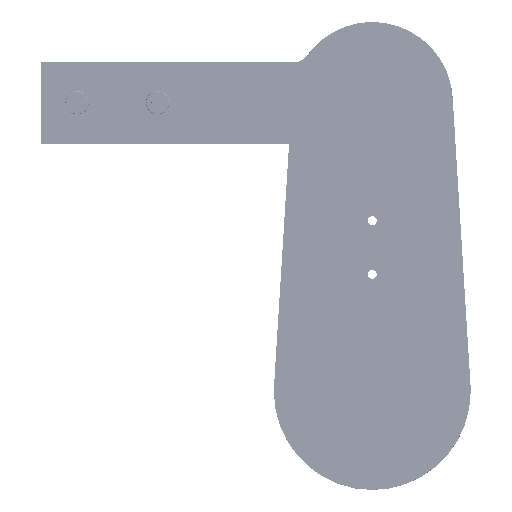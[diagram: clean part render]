
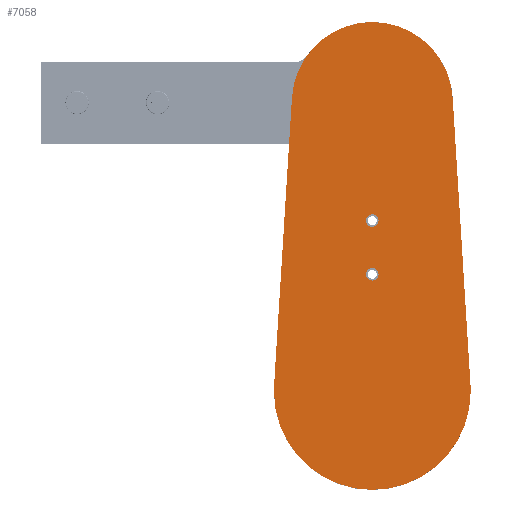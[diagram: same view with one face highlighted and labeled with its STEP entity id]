
A CAD part, top view. The second image highlights one B-rep face of the part: STEP entity #7058.
In plain terms, the highlighted planar face has unit normal (0, 0, 1) as drawn and (0, 0, -1) by its records, which use the part's own axes.
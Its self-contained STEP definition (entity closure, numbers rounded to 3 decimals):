
#544 = CIRCLE ( 'NONE', #12899, 55. ) ;
#2431 = EDGE_LOOP ( 'NONE', ( #10043, #67188 ) ) ;
#2437 = CARTESIAN_POINT ( 'NONE',  ( 3.5, 65.5, 0. ) ) ;
#2573 = DIRECTION ( 'NONE',  ( 0., 0., 1. ) ) ;
#3374 = DIRECTION ( 'NONE',  ( 0., 0., 1. ) ) ;
#4476 = CARTESIAN_POINT ( 'NONE',  ( 44.914, 164.286, 0. ) ) ;
#5417 = CIRCLE ( 'NONE', #75014, 55. ) ;
#6195 = ORIENTED_EDGE ( 'NONE', *, *, #67428, .F. ) ;
#7058 = ADVANCED_FACE ( 'NONE', ( #70098, #10536, #52899 ), #47005, .F. ) ;
#10043 = ORIENTED_EDGE ( 'NONE', *, *, #17248, .F. ) ;
#10352 = VECTOR ( 'NONE', #37359, 1000. ) ;
#10536 = FACE_BOUND ( 'NONE', #2431, .T. ) ;
#10874 = EDGE_CURVE ( 'NONE', #26065, #72833, #12954, .T. ) ;
#12877 = ORIENTED_EDGE ( 'NONE', *, *, #52815, .F. ) ;
#12899 = AXIS2_PLACEMENT_3D ( 'NONE', #48771, #3374, #29335 ) ;
#12954 = CIRCLE ( 'NONE', #43072, 3.5 ) ;
#13049 = CARTESIAN_POINT ( 'NONE',  ( 44.914, 164.286, 0. ) ) ;
#14086 = AXIS2_PLACEMENT_3D ( 'NONE', #31419, #18717, #77505 ) ;
#15070 = EDGE_CURVE ( 'NONE', #72315, #33389, #82185, .T. ) ;
#15334 = CARTESIAN_POINT ( 'NONE',  ( -44.914, 164.286, 0. ) ) ;
#15478 = EDGE_LOOP ( 'NONE', ( #6195, #81831, #70651, #69353, #60676, #12877 ) ) ;
#16303 = DIRECTION ( 'NONE',  ( 1., 0., 0. ) ) ;
#17248 = EDGE_CURVE ( 'NONE', #69261, #67124, #68544, .T. ) ;
#17356 = DIRECTION ( 'NONE',  ( 1., 0., 0. ) ) ;
#18717 = DIRECTION ( 'NONE',  ( 0., 0., 1. ) ) ;
#20359 = DIRECTION ( 'NONE',  ( 0., 0., -1. ) ) ;
#23822 = EDGE_LOOP ( 'NONE', ( #45705, #40630 ) ) ;
#26065 = VERTEX_POINT ( 'NONE', #61089 ) ;
#26873 = DIRECTION ( 'NONE',  ( 1., 0., 0. ) ) ;
#27541 = VERTEX_POINT ( 'NONE', #40498 ) ;
#29335 = DIRECTION ( 'NONE',  ( 1., 0., 0. ) ) ;
#30592 = EDGE_CURVE ( 'NONE', #31269, #72315, #5417, .T. ) ;
#31080 = CARTESIAN_POINT ( 'NONE',  ( 0., 0., 0. ) ) ;
#31165 = AXIS2_PLACEMENT_3D ( 'NONE', #59065, #20359, #26873 ) ;
#31269 = VERTEX_POINT ( 'NONE', #31817 ) ;
#31419 = CARTESIAN_POINT ( 'NONE',  ( 0., 161.5, 0. ) ) ;
#31524 = LINE ( 'NONE', #63324, #10352 ) ;
#31817 = CARTESIAN_POINT ( 'NONE',  ( -55., 0., 0. ) ) ;
#33307 = EDGE_CURVE ( 'NONE', #33389, #43278, #80870, .T. ) ;
#33389 = VERTEX_POINT ( 'NONE', #78321 ) ;
#33524 = CARTESIAN_POINT ( 'NONE',  ( 0., 161.5, 0. ) ) ;
#33568 = CARTESIAN_POINT ( 'NONE',  ( 0., 95.5, 0. ) ) ;
#35983 = DIRECTION ( 'NONE',  ( 0., 0., -1. ) ) ;
#37359 = DIRECTION ( 'NONE',  ( -0.062, -0.998, 0. ) ) ;
#37565 = DIRECTION ( 'NONE',  ( 0., 0., 1. ) ) ;
#37869 = AXIS2_PLACEMENT_3D ( 'NONE', #33524, #65737, #46452 ) ;
#39646 = CIRCLE ( 'NONE', #70371, 3.5 ) ;
#40498 = CARTESIAN_POINT ( 'NONE',  ( -54.894, 3.406, 0. ) ) ;
#40630 = ORIENTED_EDGE ( 'NONE', *, *, #45375, .F. ) ;
#41572 = CARTESIAN_POINT ( 'NONE',  ( 55., 0., 0. ) ) ;
#43072 = AXIS2_PLACEMENT_3D ( 'NONE', #81047, #73918, #16303 ) ;
#43091 = EDGE_CURVE ( 'NONE', #27541, #31269, #544, .T. ) ;
#43278 = VERTEX_POINT ( 'NONE', #4476 ) ;
#43927 = AXIS2_PLACEMENT_3D ( 'NONE', #48541, #2573, #55091 ) ;
#45375 = EDGE_CURVE ( 'NONE', #72833, #26065, #39646, .T. ) ;
#45705 = ORIENTED_EDGE ( 'NONE', *, *, #10874, .F. ) ;
#46366 = CARTESIAN_POINT ( 'NONE',  ( -3.5, 95.5, 0. ) ) ;
#46452 = DIRECTION ( 'NONE',  ( 1., 0., 0. ) ) ;
#47005 = PLANE ( 'NONE',  #37869 ) ;
#47772 = CARTESIAN_POINT ( 'NONE',  ( -3.5, 65.5, 0. ) ) ;
#48541 = CARTESIAN_POINT ( 'NONE',  ( 0., 0., 0. ) ) ;
#48771 = CARTESIAN_POINT ( 'NONE',  ( 0., 0., 0. ) ) ;
#52815 = EDGE_CURVE ( 'NONE', #82534, #27541, #31524, .T. ) ;
#52899 = FACE_OUTER_BOUND ( 'NONE', #15478, .T. ) ;
#55091 = DIRECTION ( 'NONE',  ( 1., 0., 0. ) ) ;
#59065 = CARTESIAN_POINT ( 'NONE',  ( 0., 65.5, 0. ) ) ;
#60566 = VECTOR ( 'NONE', #71208, 1000. ) ;
#60676 = ORIENTED_EDGE ( 'NONE', *, *, #43091, .F. ) ;
#61089 = CARTESIAN_POINT ( 'NONE',  ( 3.5, 95.5, 0. ) ) ;
#63324 = CARTESIAN_POINT ( 'NONE',  ( -44.914, 164.286, 0. ) ) ;
#63828 = DIRECTION ( 'NONE',  ( 1., 0., 0. ) ) ;
#65737 = DIRECTION ( 'NONE',  ( 0., 0., 1. ) ) ;
#67124 = VERTEX_POINT ( 'NONE', #47772 ) ;
#67188 = ORIENTED_EDGE ( 'NONE', *, *, #80611, .F. ) ;
#67428 = EDGE_CURVE ( 'NONE', #43278, #82534, #70586, .T. ) ;
#68473 = CARTESIAN_POINT ( 'NONE',  ( 0., 65.5, 0. ) ) ;
#68544 = CIRCLE ( 'NONE', #31165, 3.5 ) ;
#69261 = VERTEX_POINT ( 'NONE', #2437 ) ;
#69353 = ORIENTED_EDGE ( 'NONE', *, *, #30592, .F. ) ;
#69728 = CIRCLE ( 'NONE', #75241, 3.5 ) ;
#70098 = FACE_BOUND ( 'NONE', #23822, .T. ) ;
#70371 = AXIS2_PLACEMENT_3D ( 'NONE', #33568, #79138, #78870 ) ;
#70586 = CIRCLE ( 'NONE', #14086, 45. ) ;
#70651 = ORIENTED_EDGE ( 'NONE', *, *, #15070, .F. ) ;
#71208 = DIRECTION ( 'NONE',  ( -0.062, 0.998, 0. ) ) ;
#72315 = VERTEX_POINT ( 'NONE', #41572 ) ;
#72833 = VERTEX_POINT ( 'NONE', #46366 ) ;
#73918 = DIRECTION ( 'NONE',  ( 0., 0., -1. ) ) ;
#75014 = AXIS2_PLACEMENT_3D ( 'NONE', #31080, #37565, #63828 ) ;
#75241 = AXIS2_PLACEMENT_3D ( 'NONE', #68473, #35983, #17356 ) ;
#77505 = DIRECTION ( 'NONE',  ( 1., 0., 0. ) ) ;
#78321 = CARTESIAN_POINT ( 'NONE',  ( 54.894, 3.406, 0. ) ) ;
#78870 = DIRECTION ( 'NONE',  ( 1., 0., 0. ) ) ;
#79138 = DIRECTION ( 'NONE',  ( 0., 0., -1. ) ) ;
#80611 = EDGE_CURVE ( 'NONE', #67124, #69261, #69728, .T. ) ;
#80870 = LINE ( 'NONE', #13049, #60566 ) ;
#81047 = CARTESIAN_POINT ( 'NONE',  ( 0., 95.5, 0. ) ) ;
#81831 = ORIENTED_EDGE ( 'NONE', *, *, #33307, .F. ) ;
#82185 = CIRCLE ( 'NONE', #43927, 55. ) ;
#82534 = VERTEX_POINT ( 'NONE', #15334 ) ;
